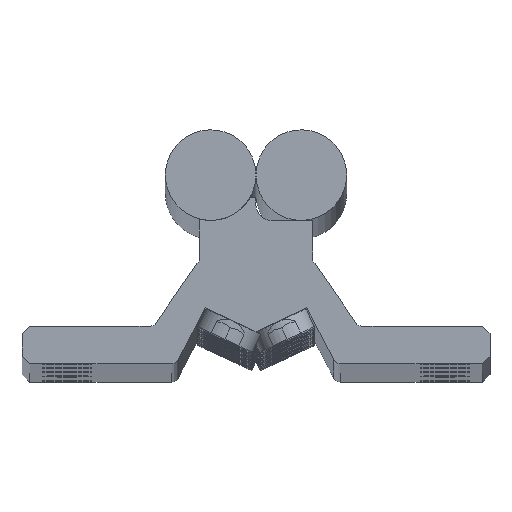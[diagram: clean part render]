
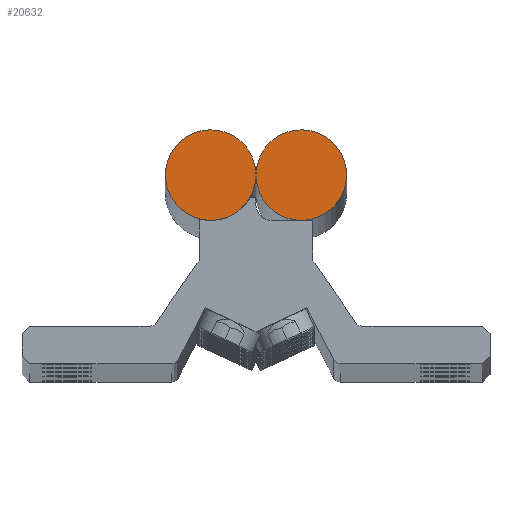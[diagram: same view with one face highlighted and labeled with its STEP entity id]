
A CAD part, top view. The second image highlights one B-rep face of the part: STEP entity #20632.
In plain terms, the highlighted planar face has unit normal (0, 0, 1).
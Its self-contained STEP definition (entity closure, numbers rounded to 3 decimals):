
#2577 = CARTESIAN_POINT ( 'NONE',  ( 0.005, 24.75, 1. ) ) ;
#2578 = DIRECTION ( 'NONE',  ( 1., 0., 0. ) ) ;
#2579 = DIRECTION ( 'NONE',  ( 0., 0., 1. ) ) ;
#2580 = CARTESIAN_POINT ( 'NONE',  ( 6., 25., 1. ) ) ;
#2581 = AXIS2_PLACEMENT_3D ( 'NONE', #2580, #2579, #2578 ) ;
#2582 = CIRCLE ( 'NONE', #2581, 6. ) ;
#2658 = CARTESIAN_POINT ( 'NONE',  ( 12., 25., 1. ) ) ;
#11383 = DIRECTION ( 'NONE',  ( 1., 0., 0. ) ) ;
#11384 = DIRECTION ( 'NONE',  ( 0., 0., 1. ) ) ;
#11385 = CARTESIAN_POINT ( 'NONE',  ( -6., 25., 1. ) ) ;
#11386 = AXIS2_PLACEMENT_3D ( 'NONE', #11385, #11384, #11383 ) ;
#11387 = CIRCLE ( 'NONE', #11386, 6. ) ;
#11418 = DIRECTION ( 'NONE',  ( 1., 0., 0. ) ) ;
#11419 = DIRECTION ( 'NONE',  ( 0., 0., 1. ) ) ;
#11420 = CARTESIAN_POINT ( 'NONE',  ( 6., 25., 1. ) ) ;
#11421 = AXIS2_PLACEMENT_3D ( 'NONE', #11420, #11419, #11418 ) ;
#11422 = CIRCLE ( 'NONE', #11421, 6. ) ;
#11423 = CARTESIAN_POINT ( 'NONE',  ( 0.005, 25.25, 1. ) ) ;
#11434 = CARTESIAN_POINT ( 'NONE',  ( -0.005, 25.25, 1. ) ) ;
#11441 = DIRECTION ( 'NONE',  ( -1., 0., 0. ) ) ;
#11442 = VECTOR ( 'NONE', #11441, 1000. ) ;
#11443 = CARTESIAN_POINT ( 'NONE',  ( 0.005, 25.25, 1. ) ) ;
#11444 = LINE ( 'NONE', #11443, #11442 ) ;
#11449 = DIRECTION ( 'NONE',  ( 1., 0., 0. ) ) ;
#11450 = DIRECTION ( 'NONE',  ( 0., 0., 1. ) ) ;
#11451 = CARTESIAN_POINT ( 'NONE',  ( 6., 25., 1. ) ) ;
#11452 = AXIS2_PLACEMENT_3D ( 'NONE', #11451, #11450, #11449 ) ;
#11453 = PLANE ( 'NONE',  #11452 ) ;
#11454 = FACE_OUTER_BOUND ( 'NONE', #20633, .T. ) ;
#11476 = CARTESIAN_POINT ( 'NONE',  ( -0.005, 24.75, 1. ) ) ;
#11477 = DIRECTION ( 'NONE',  ( 1., 0., 0. ) ) ;
#11478 = VECTOR ( 'NONE', #11477, 1000. ) ;
#11479 = CARTESIAN_POINT ( 'NONE',  ( -0.005, 24.75, 1. ) ) ;
#11480 = LINE ( 'NONE', #11479, #11478 ) ;
#15506 = EDGE_CURVE ( 'NONE', #15507, #15533, #2582, .T. ) ;
#15507 = VERTEX_POINT ( 'NONE', #2577 ) ;
#15533 = VERTEX_POINT ( 'NONE', #2658 ) ;
#20595 = EDGE_CURVE ( 'NONE', #20649, #20668, #11387, .T. ) ;
#20612 = VERTEX_POINT ( 'NONE', #11423 ) ;
#20614 = EDGE_CURVE ( 'NONE', #15533, #20612, #11422, .T. ) ;
#20632 = ADVANCED_FACE ( 'NONE', ( #11454 ), #11453, .T. ) ;
#20633 = EDGE_LOOP ( 'NONE', ( #20634, #20635, #20636, #20637, #20695 ) ) ;
#20634 = ORIENTED_EDGE ( 'NONE', *, *, #15506, .T. ) ;
#20635 = ORIENTED_EDGE ( 'NONE', *, *, #20614, .T. ) ;
#20636 = ORIENTED_EDGE ( 'NONE', *, *, #20642, .T. ) ;
#20637 = ORIENTED_EDGE ( 'NONE', *, *, #20595, .T. ) ;
#20642 = EDGE_CURVE ( 'NONE', #20612, #20649, #11444, .T. ) ;
#20649 = VERTEX_POINT ( 'NONE', #11434 ) ;
#20667 = EDGE_CURVE ( 'NONE', #20668, #15507, #11480, .T. ) ;
#20668 = VERTEX_POINT ( 'NONE', #11476 ) ;
#20695 = ORIENTED_EDGE ( 'NONE', *, *, #20667, .T. ) ;
